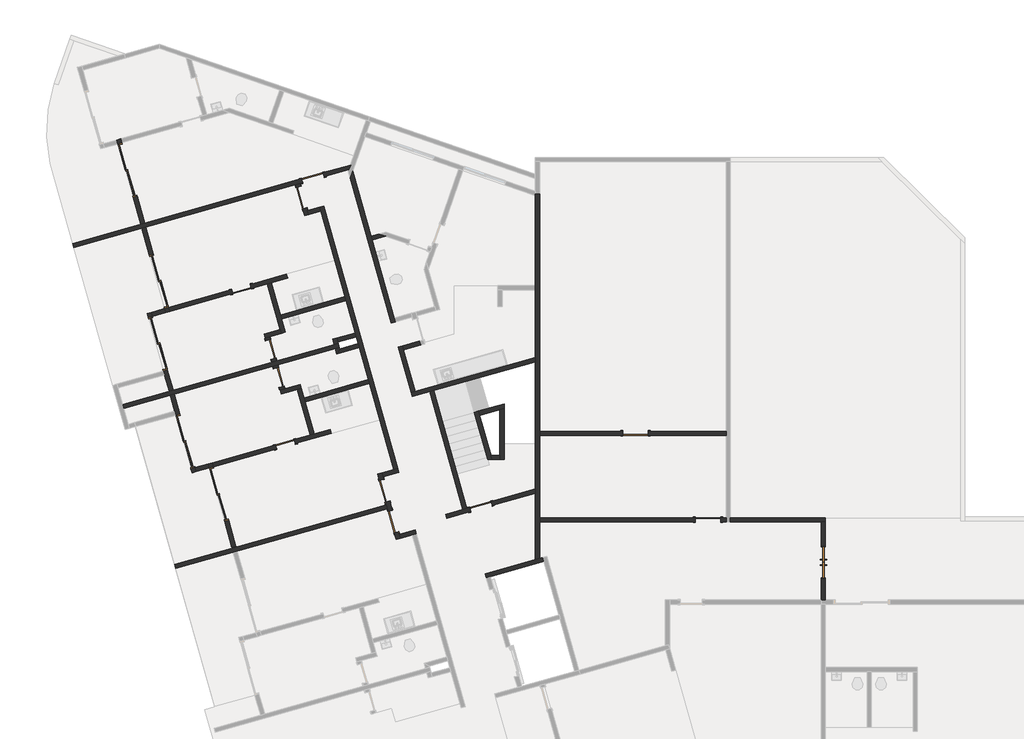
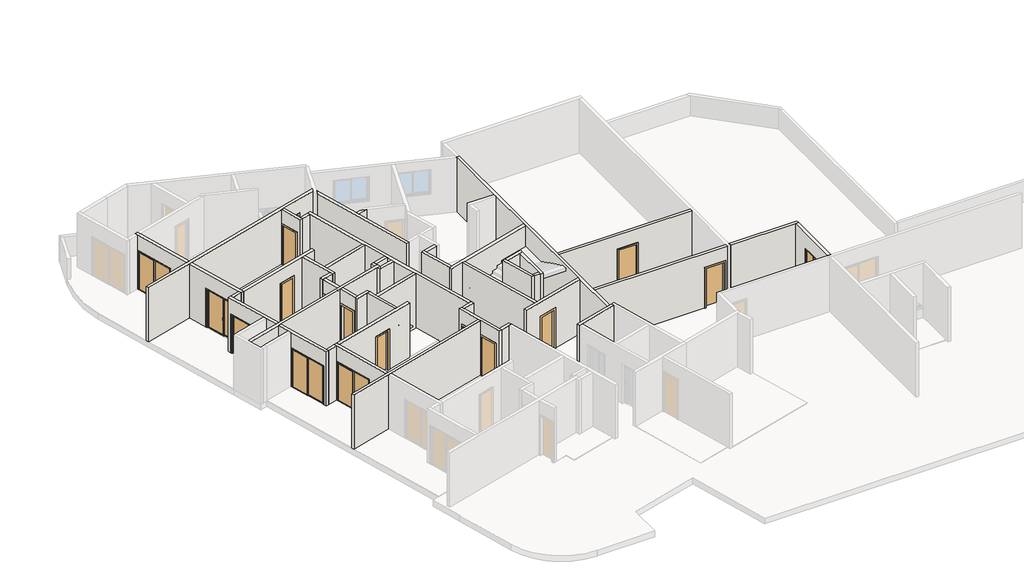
# One storey, part 2 of 7: 47 walls, 17 doors.
"""IFC4 building model written with IfcOpenShell, lengths in millimetres."""

from ifc_helpers import new_model, si_unit, frame, origin, place, context, project, spatial, polyline, outline, extrude, faceted_brep, transform, mapped, element, save
from components import door_0_90_x_2_10_7c6ad79f, door_1_20_x_2_10_046a985c, p2_80cm_9d4be4ef, p2_80cm_083652d6, p3_70cm_ef4d15e3, p3_70cm_0a698c7c, p4_correr_200cm_eaaa0877

model = new_model("IFC4")

# Units and contexts
model_context = context("Model", 3, world=origin())
ifc_project = project(units=[si_unit("LENGTHUNIT", "METRE", prefix="MILLI")], contexts=[model_context])

# Site, building, storey
site = spatial("IfcSite", under=ifc_project)
building = spatial("IfcBuilding", under=site)
storey = spatial("IfcBuildingStorey", under=building, Name="Térreo", Elevation=50750.0)

# Doors
placement = place(None, origin())
door_0_90_x_2_10_shape = door_0_90_x_2_10_7c6ad79f(model_context)
element("IfcDoor", 1, ObjectType="M_Folha única1 : 0.90 x 2.10", at=placement, inside=storey, context=model_context, shape_type="MappedRepresentation", body=[
    mapped(door_0_90_x_2_10_shape, transform((-71552.1801255, 21758.3512282, 50750.0), x_axis=(-1.0, 0.0, 0.0), y_axis=(0.0, -1.0, 0.0), z_axis=(0.0, 0.0, 1.0))),
])
element("IfcDoor", 2, ObjectType="M_Folha única1 : 0.90 x 2.10", at=placement, inside=storey, context=model_context, shape_type="MappedRepresentation", body=[
    mapped(door_0_90_x_2_10_shape, transform((-68948.5796889, 18651.6215174, 50750.0), x_axis=(1.0, 0.0, 0.0), y_axis=(0.0, 1.0, 0.0), z_axis=(0.0, 0.0, 1.0))),
])
door_1_20_x_2_10_shape = door_1_20_x_2_10_046a985c(model_context)
element("IfcDoor", 3, ObjectType="Porta pivotante dupla sem revestimento : 1.20 x 2.10", at=placement, inside=storey, context=model_context, shape_type="MappedRepresentation", body=[
    mapped(door_1_20_x_2_10_shape, transform((-64803.9279787, 17119.8740033, 50750.0), x_axis=(0.0, -1.0, 0.0), y_axis=(1.0, 0.0, 0.0), z_axis=(0.0, 0.0, 1.0))),
])
p2_80cm_shape = p2_80cm_9d4be4ef(model_context)
element("IfcDoor", 4, ObjectType="M_Folha única1 : P2 - 80CM", at=placement, inside=storey, context=model_context, shape_type="MappedRepresentation", body=[
    mapped(p2_80cm_shape, transform((-83145.1128896, 30941.0402894, 50750.0), x_axis=(-0.9623628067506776, -0.2717679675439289, 0.0), y_axis=(0.2717679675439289, -0.9623628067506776, 0.0), z_axis=(0.0, 0.0, 1.0))),
])
element("IfcDoor", 5, ObjectType="M_Folha única1 : P2 - 80CM", at=placement, inside=storey, context=model_context, shape_type="MappedRepresentation", body=[
    mapped(p2_80cm_shape, transform((-80566.3456776, 19693.5423602, 50750.0), x_axis=(0.2717679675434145, -0.9623628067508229, 0.0), y_axis=(0.9623628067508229, 0.2717679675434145, 0.0), z_axis=(0.0, 0.0, 1.0))),
])
p2_80cm_2_shape = p2_80cm_083652d6(model_context)
element("IfcDoor", 6, ObjectType="M_Folha única1 : P2 - 80CM", at=placement, inside=storey, context=model_context, shape_type="MappedRepresentation", body=[
    mapped(p2_80cm_2_shape, transform((-83542.2049222, 30231.4150941, 50750.0), x_axis=(-0.2717679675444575, 0.9623628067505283, 0.0), y_axis=(-0.9623628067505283, -0.2717679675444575, 0.0), z_axis=(0.0, 0.0, 1.0))),
])
element("IfcDoor", 7, ObjectType="M_Folha única1 : P2 - 80CM", at=placement, inside=storey, context=model_context, shape_type="MappedRepresentation", body=[
    mapped(p2_80cm_2_shape, transform((-80253.8125149, 18586.8251325, 50750.0), x_axis=(-0.2717679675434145, 0.9623628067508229, 0.0), y_axis=(-0.9623628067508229, -0.2717679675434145, 0.0), z_axis=(0.0, 0.0, 1.0))),
])
p3_70cm_shape = p3_70cm_ef4d15e3(model_context)
element("IfcDoor", 8, ObjectType="M_Folha única1 : P3 - 70CM", at=placement, inside=storey, context=model_context, shape_type="MappedRepresentation", body=[
    mapped(p3_70cm_shape, transform((-84129.1775441, 21363.1168842, 50750.0), x_axis=(0.9623628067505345, 0.27176796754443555, 0.0), y_axis=(-0.27176796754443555, 0.9623628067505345, 0.0), z_axis=(0.0, 0.0, 1.0))),
])
element("IfcDoor", 9, ObjectType="M_Folha única1 : P3 - 70CM", at=placement, inside=storey, context=model_context, shape_type="MappedRepresentation", body=[
    mapped(p3_70cm_shape, transform((-84650.97864, 24774.7108835, 50750.0), x_axis=(0.2717679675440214, -0.9623628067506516, 0.0), y_axis=(0.9623628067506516, 0.2717679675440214, 0.0), z_axis=(0.0, 0.0, 1.0))),
])
p3_70cm_2_shape = p3_70cm_0a698c7c(model_context)
element("IfcDoor", 10, ObjectType="M_Folha única1 : P3 - 70CM", at=placement, inside=storey, context=model_context, shape_type="MappedRepresentation", body=[
    mapped(p3_70cm_2_shape, transform((-84365.6222741, 23764.2299364, 50750.0), x_axis=(-0.2717679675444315, 0.9623628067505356, 0.0), y_axis=(-0.9623628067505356, -0.2717679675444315, 0.0), z_axis=(0.0, 0.0, 1.0))),
])
element("IfcDoor", 11, ObjectType="M_Folha única1 : P3 - 70CM", at=placement, inside=storey, context=model_context, shape_type="MappedRepresentation", body=[
    mapped(p3_70cm_2_shape, transform((-85705.4317558, 26944.8211633, 50750.0), x_axis=(0.9623628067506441, 0.2717679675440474, 0.0), y_axis=(-0.2717679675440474, 0.9623628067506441, 0.0), z_axis=(0.0, 0.0, 1.0))),
])
p4_correr_200cm_shape = p4_correr_200cm_eaaa0877(model_context)
element("IfcDoor", 12, ObjectType="Porta de correr dupla envidraçada sem revestimento : P4 - CORRER - 200CM", at=placement, inside=storey, context=model_context, shape_type="MappedRepresentation", body=[
    mapped(p4_correr_200cm_shape, transform((-89799.7974026, 31217.9316171, 50750.0), x_axis=(0.27176796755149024, -0.9623628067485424, 0.0), y_axis=(0.9623628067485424, 0.27176796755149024, 0.0), z_axis=(0.0, 0.0, 1.0))),
])
element("IfcDoor", 13, ObjectType="Porta de correr dupla envidraçada sem revestimento : P4 - CORRER - 200CM", at=placement, inside=storey, context=model_context, shape_type="MappedRepresentation", body=[
    mapped(p4_correr_200cm_shape, transform((-88671.9603372, 27224.125969, 50750.0), x_axis=(-0.27176796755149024, 0.9623628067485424, 0.0), y_axis=(-0.9623628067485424, -0.27176796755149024, 0.0), z_axis=(0.0, 0.0, 1.0))),
])
element("IfcDoor", 14, ObjectType="Porta de correr dupla envidraçada sem revestimento : P4 - CORRER - 200CM", at=placement, inside=storey, context=model_context, shape_type="MappedRepresentation", body=[
    mapped(p4_correr_200cm_shape, transform((-86511.4049952, 19573.3416554, 50750.0), x_axis=(0.2717679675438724, -0.9623628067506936, 0.0), y_axis=(0.9623628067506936, 0.2717679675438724, 0.0), z_axis=(0.0, 0.0, 1.0))),
])
element("IfcDoor", 15, ObjectType="Porta de correr dupla envidraçada sem revestimento : P4 - CORRER - 200CM", at=placement, inside=storey, context=model_context, shape_type="MappedRepresentation", body=[
    mapped(p4_correr_200cm_shape, transform((-87717.4207223, 21466.8516126, 50750.0), x_axis=(0.2717679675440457, -0.9623628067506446, 0.0), y_axis=(0.9623628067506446, 0.2717679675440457, 0.0), z_axis=(0.0, 0.0, 1.0))),
])
element("IfcDoor", 16, ObjectType="Porta de correr dupla envidraçada sem revestimento : P4 - CORRER - 200CM", at=placement, inside=storey, context=model_context, shape_type="MappedRepresentation", body=[
    mapped(p4_correr_200cm_shape, transform((-88709.3738038, 24979.4758572, 50750.0), x_axis=(-0.2717679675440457, 0.9623628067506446, 0.0), y_axis=(-0.9623628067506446, -0.2717679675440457, 0.0), z_axis=(0.0, 0.0, 1.0))),
])
element("IfcDoor", 17, ObjectType="M_Folha única1 : PCF1 - 80CM", at=placement, inside=storey, context=model_context, shape_type="MappedRepresentation", body=[
    mapped(p2_80cm_shape, transform((-77103.5502958, 19127.1105693, 50750.0), x_axis=(-0.9623628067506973, -0.2717679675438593, 0.0), y_axis=(0.2717679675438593, -0.9623628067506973, 0.0), z_axis=(0.0, 0.0, 1.0))),
])

# Walls
element("IfcWall", 18, ObjectType="Básica .15 -  Interna", at=placement, inside=storey, context=model_context, shape_type="Brep", body=[
    faceted_brep([(-82901.0804648, 29892.9118737, 50750.0), (-82860.3152697, 29748.5574527, 50750.0), (-81990.6577736, 26668.9964711, 50750.0), (-81949.8925784, 26524.6420501, 50750.0), (-81623.7710174, 25369.806682, 50750.0), (-81583.0058223, 25225.452261, 50750.0), (-81515.0638304, 24984.8615593, 50750.0), (-81474.2986352, 24840.5071383, 50750.0), (-81148.1770742, 23685.6717702, 50750.0), (-81107.4118791, 23541.3173492, 50750.0), (-80237.7543829, 20461.7563676, 50750.0), (-80237.7543829, 20461.7563676, 53650.0), (-81107.4118791, 23541.3173492, 53650.0), (-81148.1770742, 23685.6717702, 53650.0), (-81474.2986352, 24840.5071383, 53650.0), (-81515.0638304, 24984.8615593, 53650.0), (-81583.0058223, 25225.452261, 53650.0), (-81623.7710174, 25369.806682, 53650.0), (-81949.8925784, 26524.6420501, 53650.0), (-81990.6577736, 26668.9964711, 53650.0), (-82860.3152697, 29748.5574527, 53650.0), (-82901.0804648, 29892.9118737, 53650.0), (-82756.7260438, 29933.6770689, 50750.0), (-82756.7260438, 29933.6770689, 53650.0), (-80093.3999619, 20502.5215627, 53650.0), (-80093.3999619, 20502.5215627, 50750.0)], [[[0, 1, 2, 3, 4, 5, 6, 7, 8, 9, 10, 11, 12, 13, 14, 15, 16, 17, 18, 19, 20, 21]], [[22, 23, 24, 25]], [[10, 9, 8, 7, 6, 5, 4, 3, 2, 1, 0, 22, 25]], [[21, 20, 19, 18, 17, 16, 15, 14, 13, 12, 11, 24, 23]], [[0, 21, 23, 22]], [[11, 10, 25, 24]]]),
])
element("IfcWall", 19, ObjectType="Básica .15 -  Interna", at=placement, inside=storey, context=model_context, shape_type="Brep", body=[
    faceted_brep([(-83750.2661164, 30692.2138999, 50750.0), (-83723.0893197, 30595.9776193, 50750.0), (-83723.0893197, 30595.9776193, 52850.0), (-83505.6749457, 29826.0873739, 52850.0), (-83505.6749457, 29826.0873739, 50750.0), (-83437.7329538, 29585.4966722, 50750.0), (-83437.7329538, 29585.4966722, 53650.0), (-83750.2661164, 30692.2138999, 53650.0), (-83578.7348987, 30636.7428144, 52850.0), (-83578.7348987, 30636.7428144, 50750.0), (-83605.9116954, 30732.9790951, 50750.0), (-83605.9116954, 30732.9790951, 53650.0), (-83334.1437279, 29770.6162883, 53650.0), (-83293.3785328, 29626.2618673, 53650.0), (-83293.3785328, 29626.2618673, 50750.0), (-83334.1437279, 29770.6162883, 50750.0), (-83361.3205246, 29866.852569, 50750.0), (-83361.3205246, 29866.852569, 52850.0)], [[[0, 1, 2, 3, 4, 5, 6, 7]], [[8, 9, 10, 11, 12, 13, 14, 15, 16, 17]], [[10, 9, 1, 0]], [[16, 15, 14, 5, 4]], [[7, 6, 13, 12, 11]], [[6, 5, 14, 13]], [[0, 7, 11, 10]], [[2, 1, 9, 8]], [[3, 2, 8, 17]], [[4, 3, 17, 16]]]),
])
element("IfcWall", 20, ObjectType="Básica .15 -  Interna", at=placement, inside=storey, context=model_context, shape_type="SweptSolid", body=[
    extrude(outline(polyline([(-82860.3152697, 29748.5574527), (-83293.3785328, 29626.2618673), (-83334.1437279, 29770.6162883), (-82901.0804648, 29892.9118737), (-82860.3152697, 29748.5574527)])), frame((0.0, 0.0, 50750.0), z_axis=(0.0, 0.0, 1.0), x_axis=(1.0, 0.0, 0.0)), (0.0, 0.0, 1.0), 2900.0),
])
element("IfcWall", 21, ObjectType="Básica .15 -  Interna", at=placement, inside=storey, context=model_context, shape_type="Brep", body=[
    faceted_brep([(-80093.3999619, 20502.5215627, 50750.0), (-80237.7543829, 20461.7563676, 50750.0), (-80670.817646, 20339.4607822, 50750.0), (-80670.817646, 20339.4607822, 53650.0), (-80237.7543829, 20461.7563676, 53650.0), (-80093.3999619, 20502.5215627, 53650.0), (-80052.6347668, 20358.1671417, 50750.0), (-80052.6347668, 20358.1671417, 53650.0), (-80630.0524508, 20195.1063612, 53650.0), (-80630.0524508, 20195.1063612, 50750.0)], [[[0, 1, 2, 3, 4, 5]], [[6, 7, 8, 9]], [[2, 1, 0, 6, 9]], [[5, 4, 3, 8, 7]], [[3, 2, 9, 8]], [[0, 5, 7, 6]]]),
])
element("IfcWall", 22, ObjectType="Básica .15 -  Interna", at=placement, inside=storey, context=model_context, shape_type="Brep", body=[
    faceted_brep([(-80529.815701, 19288.21464, 50750.0), (-80502.6389043, 19191.9783593, 50750.0), (-80461.8737092, 19047.6239383, 50750.0), (-80434.6969124, 18951.3876576, 50750.0), (-80434.6969124, 18951.3876576, 52850.0), (-80217.2825384, 18181.4974122, 52850.0), (-80217.2825384, 18181.4974122, 50750.0), (-80149.3405465, 17940.9067105, 50750.0), (-80149.3405465, 17940.9067105, 53650.0), (-80461.8737092, 19047.6239383, 53650.0), (-80502.6389043, 19191.9783593, 53650.0), (-80815.172067, 20298.695587, 53650.0), (-80815.172067, 20298.695587, 50750.0), (-80747.2300751, 20058.1048854, 50750.0), (-80747.2300751, 20058.1048854, 52850.0), (-80529.815701, 19288.21464, 52850.0), (-80290.3424914, 18992.1528527, 52850.0), (-80290.3424914, 18992.1528527, 50750.0), (-80385.46128, 19328.9798351, 50750.0), (-80385.46128, 19328.9798351, 52850.0), (-80602.8756541, 20098.8700805, 52850.0), (-80602.8756541, 20098.8700805, 50750.0), (-80630.0524508, 20195.1063612, 50750.0), (-80670.817646, 20339.4607822, 50750.0), (-80670.817646, 20339.4607822, 53650.0), (-80630.0524508, 20195.1063612, 53650.0), (-80045.7513206, 18126.0263266, 53650.0), (-80004.9861255, 17981.6719056, 53650.0), (-80004.9861255, 17981.6719056, 50750.0), (-80045.7513206, 18126.0263266, 50750.0), (-80072.9281174, 18222.2626073, 50750.0), (-80072.9281174, 18222.2626073, 52850.0)], [[[0, 1, 2, 3, 4, 5, 6, 7, 8, 9, 10, 11, 12, 13, 14, 15]], [[16, 17, 18, 19, 20, 21, 22, 23, 24, 25, 26, 27, 28, 29, 30, 31]], [[13, 12, 23, 22, 21]], [[18, 17, 3, 2, 1, 0]], [[30, 29, 28, 7, 6]], [[11, 10, 9, 8, 27, 26, 25, 24]], [[12, 11, 24, 23]], [[8, 7, 28, 27]], [[19, 18, 0, 15]], [[20, 19, 15, 14]], [[21, 20, 14, 13]], [[4, 3, 17, 16]], [[5, 4, 16, 31]], [[6, 5, 31, 30]]]),
])
element("IfcWall", 23, ObjectType="Básica .15 -  Interna", at=placement, inside=storey, context=model_context, shape_type="Brep", body=[
    faceted_brep([(-80004.9861255, 17981.6719056, 50750.0), (-79571.9228624, 18103.967491, 50750.0), (-79427.5684414, 18144.7326862, 50750.0), (-79427.5684414, 18144.7326862, 53650.0), (-79571.9228624, 18103.967491, 53650.0), (-80004.9861255, 17981.6719056, 53650.0), (-80045.7513206, 18126.0263266, 50750.0), (-80045.7513206, 18126.0263266, 53650.0), (-79468.3336366, 18289.0871072, 53650.0), (-79468.3336366, 18289.0871072, 50750.0)], [[[0, 1, 2, 3, 4, 5]], [[6, 7, 8, 9]], [[2, 1, 0, 6, 9]], [[5, 4, 3, 8, 7]], [[3, 2, 9, 8]], [[0, 5, 7, 6]]]),
])
element("IfcWall", 24, ObjectType="Básica .15 -  Interna", at=placement, inside=storey, context=model_context, shape_type="Brep", body=[
    faceted_brep([(-86046.8404698, 17652.2925145, 50750.0), (-86046.8404698, 17652.2925145, 53650.0), (-86855.3501733, 20515.3218646, 53650.0), (-86896.1153684, 20659.6762856, 53650.0), (-86896.1153684, 20659.6762856, 50750.0), (-86855.3501733, 20515.3218646, 50750.0), (-86855.3501733, 20515.3218646, 52850.0), (-86311.8142382, 18590.596251, 52850.0), (-86311.8142382, 18590.596251, 50750.0), (-85902.4860488, 17693.0577096, 53650.0), (-85902.4860488, 17693.0577096, 50750.0), (-86167.4598172, 18631.3614462, 50750.0), (-86167.4598172, 18631.3614462, 52850.0), (-86710.9957523, 20556.0870597, 52850.0), (-86710.9957523, 20556.0870597, 50750.0), (-86751.7609474, 20700.4414807, 50750.0), (-86751.7609474, 20700.4414807, 53650.0), (-86710.9957523, 20556.0870597, 53650.0)], [[[0, 1, 2, 3, 4, 5, 6, 7, 8]], [[9, 10, 11, 12, 13, 14, 15, 16, 17]], [[10, 0, 8, 11]], [[4, 15, 14, 5]], [[1, 0, 10, 9]], [[3, 2, 1, 9, 17, 16]], [[4, 3, 16, 15]], [[7, 12, 11, 8]], [[12, 7, 6, 13]], [[13, 6, 5, 14]]]),
])
element("IfcWall", 25, ObjectType="Básica .15 -  Interna", at=placement, inside=storey, context=model_context, shape_type="Brep", body=[
    faceted_brep([(-88305.9570711, 23274.9583478, 53650.0), (-88469.0178517, 23852.3760319, 53650.0), (-88509.7830468, 23996.7304529, 53650.0), (-89094.084177, 26065.8104874, 53650.0), (-89094.084177, 26065.8104874, 50750.0), (-89053.3189819, 25921.4560664, 50750.0), (-89053.3189819, 25921.4560664, 52850.0), (-88509.7830468, 23996.7304529, 52850.0), (-88509.7830468, 23996.7304529, 50750.0), (-88469.0178517, 23852.3760319, 50750.0), (-88305.9570711, 23274.9583478, 50750.0), (-88949.729756, 26106.5756825, 53650.0), (-88908.9645609, 25962.2212615, 53650.0), (-88161.6026501, 23315.723543, 53650.0), (-88161.6026501, 23315.723543, 50750.0), (-88365.4286258, 24037.495648, 50750.0), (-88365.4286258, 24037.495648, 52850.0), (-88908.9645609, 25962.2212615, 52850.0), (-88908.9645609, 25962.2212615, 50750.0), (-88949.729756, 26106.5756825, 50750.0)], [[[0, 1, 2, 3, 4, 5, 6, 7, 8, 9, 10]], [[11, 12, 13, 14, 15, 16, 17, 18, 19]], [[4, 19, 18, 5]], [[14, 10, 9, 8, 15]], [[3, 2, 1, 0, 13, 12, 11]], [[4, 3, 11, 19]], [[0, 10, 14, 13]], [[17, 6, 5, 18]], [[6, 17, 16, 7]], [[7, 16, 15, 8]]]),
])
element("IfcWall", 26, ObjectType="Básica .15 -  Interna", at=placement, inside=storey, context=model_context, shape_type="Brep", body=[
    faceted_brep([(-89143.3190618, 29169.2341801, 53650.0), (-88328.0151592, 26282.1457598, 53650.0), (-88287.249964, 26137.7913388, 53650.0), (-88287.249964, 26137.7913388, 50750.0), (-88328.0151592, 26282.1457598, 50750.0), (-88328.0151592, 26282.1457598, 52850.0), (-88871.5510943, 28206.8713733, 52850.0), (-88871.5510943, 28206.8713733, 50750.0), (-89143.3190618, 29169.2341801, 50750.0), (-88431.604385, 26097.0261437, 53650.0), (-88472.3695802, 26241.3805647, 53650.0), (-89287.6734828, 29128.468985, 53650.0), (-89287.6734828, 29128.468985, 50750.0), (-89015.9055153, 28166.1061782, 50750.0), (-89015.9055153, 28166.1061782, 52850.0), (-88472.3695802, 26241.3805647, 52850.0), (-88472.3695802, 26241.3805647, 50750.0), (-88431.604385, 26097.0261437, 50750.0)], [[[0, 1, 2, 3, 4, 5, 6, 7, 8]], [[9, 10, 11, 12, 13, 14, 15, 16, 17]], [[3, 17, 16, 4]], [[12, 8, 7, 13]], [[2, 1, 0, 11, 10, 9]], [[3, 2, 9, 17]], [[0, 8, 12, 11]], [[6, 14, 13, 7]], [[14, 6, 5, 15]], [[15, 5, 4, 16]]]),
])
element("IfcWall", 27, ObjectType="Básica .15 -  Interna", at=placement, inside=storey, context=model_context, shape_type="Brep", body=[
    faceted_brep([(-76904.7538909, 16570.3643175, 50750.0), (-76760.3994699, 16611.1295126, 50750.0), (-74840.4856705, 17153.3066079, 50750.0), (-74840.4856705, 17153.3066079, 53650.0), (-76760.3994699, 16611.1295126, 53650.0), (-76904.7538909, 16570.3643175, 53650.0), (-76945.5190861, 16714.7187385, 50750.0), (-76945.5190861, 16714.7187385, 53650.0), (-75147.8282189, 17222.3804954, 53650.0), (-74997.8282189, 17264.7399828, 53650.0), (-74881.2508656, 17297.6610289, 53650.0), (-74881.2508656, 17297.6610289, 50750.0), (-74997.8282189, 17264.7399828, 50750.0), (-75147.8282189, 17222.3804954, 50750.0)], [[[0, 1, 2, 3, 4, 5]], [[6, 7, 8, 9, 10, 11, 12, 13]], [[2, 1, 0, 6, 13, 12, 11]], [[5, 4, 3, 10, 9, 8, 7]], [[0, 5, 7, 6]], [[3, 2, 11, 10]]]),
])
element("IfcWall", 28, ObjectType="Básica .15 -  Interna", at=placement, inside=storey, context=model_context, shape_type="Brep", body=[
    faceted_brep([(-79570.9048554, 23078.5590693, 50750.0), (-78948.2127609, 23254.4051886, 50750.0), (-78803.8582924, 23295.1703972, 50750.0), (-75147.8282189, 24327.6207947, 50750.0), (-75147.8282189, 24327.6207947, 53650.0), (-78803.8582924, 23295.1703972, 53650.0), (-78948.2127609, 23254.4051886, 53650.0), (-79570.9048554, 23078.5590693, 53650.0), (-79611.6700506, 23222.9134903, 50750.0), (-79611.6700506, 23222.9134903, 53650.0), (-79467.3156296, 23263.6786855, 53650.0), (-75147.8282189, 24483.4871675, 53650.0), (-75147.8282189, 24483.4871675, 50750.0), (-79467.3156296, 23263.6786855, 50750.0)], [[[0, 1, 2, 3, 4, 5, 6, 7]], [[8, 9, 10, 11, 12, 13]], [[3, 2, 1, 0, 8, 13, 12]], [[7, 6, 5, 4, 11, 10, 9]], [[0, 7, 9, 8]], [[4, 3, 12, 11]]]),
])
element("IfcWall", 29, ObjectType="Básica .15 -  Interna", at=placement, inside=storey, context=model_context, shape_type="SweptSolid", body=[
    extrude(outline(polyline([(-77749.4687652, 19022.6385875), (-78948.2127609, 23254.4051886), (-78803.8582924, 23295.1703972), (-77605.1142967, 19063.4037961), (-77749.4687652, 19022.6385875)])), frame((0.0, 0.0, 50750.0), z_axis=(0.0, 0.0, 1.0), x_axis=(1.0, 0.0, 0.0)), (0.0, 0.0, 1.0), 2900.0),
])
element("IfcWall", 30, ObjectType="Básica .15 -  Interna", at=placement, inside=storey, context=model_context, shape_type="Brep", body=[
    faceted_brep([(-77508.878016, 19090.5805928, 52850.0), (-77508.878016, 19090.5805928, 50750.0), (-77605.1142967, 19063.4037961, 50750.0), (-77749.4687652, 19022.6385875, 50750.0), (-78375.5945972, 18845.8227925, 50750.0), (-78375.5945972, 18845.8227925, 53650.0), (-77749.4687652, 19022.6385875, 53650.0), (-77605.1142967, 19063.4037961, 53650.0), (-75147.8282189, 19757.3329862, 53650.0), (-75147.8282189, 19757.3329862, 50750.0), (-76738.9877706, 19307.9949669, 50750.0), (-76738.9877706, 19307.9949669, 52850.0), (-78334.829402, 18701.4683715, 50750.0), (-77468.1128209, 18946.2261718, 50750.0), (-77468.1128209, 18946.2261718, 52850.0), (-76698.2225755, 19163.6405459, 52850.0), (-76698.2225755, 19163.6405459, 50750.0), (-75147.8282189, 19601.4666134, 50750.0), (-75147.8282189, 19601.4666134, 53650.0), (-78334.829402, 18701.4683715, 53650.0)], [[[0, 1, 2, 3, 4, 5, 6, 7, 8, 9, 10, 11]], [[12, 13, 14, 15, 16, 17, 18, 19]], [[10, 9, 17, 16]], [[4, 3, 2, 1, 13, 12]], [[5, 4, 12, 19]], [[8, 7, 6, 5, 19, 18]], [[14, 13, 1, 0]], [[15, 14, 0, 11]], [[16, 15, 11, 10]], [[9, 8, 18, 17]]]),
])
element("IfcWall", 31, ObjectType="Básica .15 -  Interna", at=placement, inside=storey, context=model_context, shape_type="Brep", body=[
    faceted_brep([(-75147.8282189, 30356.258394, 50750.0), (-75147.8282189, 30302.8666514, 50750.0), (-75147.8282189, 27060.8243598, 50750.0), (-75147.8282189, 26910.8243598, 50750.0), (-75147.8282189, 24483.4871675, 50750.0), (-75147.8282189, 24327.6207947, 50750.0), (-75147.8282189, 19757.3329862, 50750.0), (-75147.8282189, 19601.4666134, 50750.0), (-75147.8282189, 17222.3804954, 50750.0), (-75147.8282189, 17222.3804954, 53650.0), (-75147.8282189, 19601.4666134, 53650.0), (-75147.8282189, 19757.3329862, 53650.0), (-75147.8282189, 24327.6207947, 53650.0), (-75147.8282189, 24483.4871675, 53650.0), (-75147.8282189, 26910.8243598, 53650.0), (-75147.8282189, 27060.8243598, 53650.0), (-75147.8282189, 30302.8666514, 53650.0), (-75147.8282189, 30356.258394, 53650.0), (-74997.8282189, 30356.258394, 50750.0), (-74997.8282189, 30356.258394, 53650.0), (-74997.8282189, 21833.3512282, 53650.0), (-74997.8282189, 21683.3512282, 53650.0), (-74997.8282189, 18726.6215174, 53650.0), (-74997.8282189, 18576.6215174, 53650.0), (-74997.8282189, 17264.7399828, 53650.0), (-74997.8282189, 17264.7399828, 50750.0), (-74997.8282189, 18576.6215174, 50750.0), (-74997.8282189, 18726.6215174, 50750.0), (-74997.8282189, 21683.3512282, 50750.0), (-74997.8282189, 21833.3512282, 50750.0)], [[[0, 1, 2, 3, 4, 5, 6, 7, 8, 9, 10, 11, 12, 13, 14, 15, 16, 17]], [[18, 19, 20, 21, 22, 23, 24, 25, 26, 27, 28, 29]], [[8, 7, 6, 5, 4, 3, 2, 1, 0, 18, 29, 28, 27, 26, 25]], [[17, 16, 15, 14, 13, 12, 11, 10, 9, 24, 23, 22, 21, 20, 19]], [[0, 17, 19, 18]], [[9, 8, 25, 24]]]),
])
element("IfcWall", 32, ObjectType="Básica .15 -  Interna", at=placement, inside=storey, context=model_context, shape_type="Brep", body=[
    faceted_brep([(-80073.6755954, 24858.9302618, 50750.0), (-79611.6700506, 23222.9134903, 50750.0), (-79611.6700506, 23222.9134903, 53650.0), (-80073.6755954, 24858.9302618, 53650.0), (-79929.3211744, 24899.695457, 50750.0), (-79929.3211744, 24899.695457, 53650.0), (-79888.5559793, 24755.3410359, 53650.0), (-79467.3156296, 23263.6786855, 53650.0), (-79467.3156296, 23263.6786855, 50750.0), (-79888.5559793, 24755.3410359, 50750.0)], [[[0, 1, 2, 3]], [[4, 5, 6, 7, 8, 9]], [[1, 0, 4, 9, 8]], [[3, 2, 7, 6, 5]], [[0, 3, 5, 4]], [[2, 1, 8, 7]]]),
])
element("IfcWall", 33, ObjectType="Básica .15 -  Interna", at=placement, inside=storey, context=model_context, shape_type="Brep", body=[
    faceted_brep([(-79888.5559793, 24755.3410359, 50750.0), (-79272.1145689, 24929.4219834, 50750.0), (-79272.1145689, 24929.4219834, 53650.0), (-79888.5559793, 24755.3410359, 53650.0), (-79929.3211744, 24899.695457, 50750.0), (-79929.3211744, 24899.695457, 53650.0), (-79312.8797641, 25073.7764044, 53650.0), (-79312.8797641, 25073.7764044, 52850.0), (-79312.8797641, 25073.7764044, 50750.0)], [[[0, 1, 2, 3]], [[4, 5, 6, 7, 8]], [[1, 0, 4, 8]], [[3, 2, 6, 5]], [[0, 3, 5, 4]], [[2, 1, 8, 7, 6]]]),
])
element("IfcWall", 34, ObjectType="Básica .15 -  Interna", at=placement, inside=storey, context=model_context, shape_type="Brep", body=[
    faceted_brep([(-81789.2550074, 30934.0017027, 50750.0), (-80318.2667662, 25725.0567879, 50750.0), (-80318.2667662, 25725.0567879, 53650.0), (-81789.2550074, 30934.0017027, 53650.0), (-81703.3880158, 31181.8778654, 50750.0), (-81703.3880158, 31181.8778654, 53650.0), (-81045.1503443, 28850.9797144, 53650.0), (-81004.3851492, 28706.6252933, 53650.0), (-80214.6775403, 25910.176404, 53650.0), (-80173.9123452, 25765.821983, 53650.0), (-80173.9123452, 25765.821983, 50750.0), (-80214.6775403, 25910.176404, 50750.0), (-81004.3851492, 28706.6252933, 50750.0), (-81045.1503443, 28850.9797144, 50750.0)], [[[0, 1, 2, 3]], [[4, 5, 6, 7, 8, 9, 10, 11, 12, 13]], [[1, 0, 4, 13, 12, 11, 10]], [[3, 2, 9, 8, 7, 6, 5]], [[0, 3, 5, 4]], [[2, 1, 10, 9]]]),
])
element("IfcWall", 35, ObjectType="Básica .15 -  Interna", at=placement, inside=storey, context=model_context, shape_type="Brep", body=[
    faceted_brep([(-86896.1153684, 20659.6762856, 50750.0), (-87373.4755442, 20524.8714034, 50750.0), (-87373.4755442, 20524.8714034, 52850.0), (-87373.4755442, 20524.8714034, 53650.0), (-86896.1153684, 20659.6762856, 53650.0), (-86855.3501733, 20515.3218646, 50750.0), (-86855.3501733, 20515.3218646, 52850.0), (-86855.3501733, 20515.3218646, 53650.0), (-87332.7103491, 20380.5169824, 53650.0), (-87332.7103491, 20380.5169824, 50750.0)], [[[0, 1, 2, 3, 4]], [[5, 6, 7, 8, 9]], [[1, 0, 5, 9]], [[4, 3, 8, 7]], [[0, 4, 7, 6, 5]], [[3, 2, 1, 9, 8]]]),
])
element("IfcWall", 36, ObjectType="Básica .15 -  Interna", at=placement, inside=storey, context=model_context, shape_type="Brep", body=[
    faceted_brep([(-88908.9645609, 25962.2212615, 50750.0), (-88431.604385, 26097.0261437, 50750.0), (-88431.604385, 26097.0261437, 53650.0), (-88908.9645609, 25962.2212615, 53650.0), (-88908.9645609, 25962.2212615, 52850.0), (-88949.729756, 26106.5756825, 50750.0), (-88949.729756, 26106.5756825, 53650.0), (-88472.3695802, 26241.3805647, 53650.0), (-88472.3695802, 26241.3805647, 50750.0)], [[[0, 1, 2, 3, 4]], [[5, 6, 7, 8]], [[1, 0, 5, 8]], [[3, 2, 7, 6]], [[0, 4, 3, 6, 5]], [[2, 1, 8, 7]]]),
])
element("IfcWall", 37, ObjectType="Básica .15 -  Interna", at=placement, inside=storey, context=model_context, shape_type="Brep", body=[
    faceted_brep([(-91725.2428613, 28440.1077234, 50750.0), (-89287.6734828, 29128.468985, 50750.0), (-89143.3190618, 29169.2341801, 50750.0), (-83750.2661164, 30692.2138999, 50750.0), (-83605.9116954, 30732.9790951, 50750.0), (-83509.6754148, 30760.1558918, 50750.0), (-83509.6754148, 30760.1558918, 52850.0), (-82739.7851694, 30977.5702659, 52850.0), (-82739.7851694, 30977.5702659, 50750.0), (-81845.4155775, 31230.1371819, 50750.0), (-81845.4155775, 31230.1371819, 53650.0), (-83605.9116954, 30732.9790951, 53650.0), (-83750.2661164, 30692.2138999, 53650.0), (-89143.3190618, 29169.2341801, 53650.0), (-89287.6734828, 29128.468985, 53650.0), (-91725.2428613, 28440.1077234, 53650.0), (-83550.4406099, 30904.5103128, 52850.0), (-83550.4406099, 30904.5103128, 50750.0), (-89184.084257, 29313.5886011, 50750.0), (-89328.438678, 29272.823406, 50750.0), (-91766.0080564, 28584.4621444, 50750.0), (-91766.0080564, 28584.4621444, 53650.0), (-89328.438678, 29272.823406, 53650.0), (-89184.084257, 29313.5886011, 53650.0), (-81785.5670817, 31402.9045654, 53650.0), (-81785.5670817, 31402.9045654, 50750.0), (-82780.5503645, 31121.9246869, 50750.0), (-82780.5503645, 31121.9246869, 52850.0)], [[[0, 1, 2, 3, 4, 5, 6, 7, 8, 9, 10, 11, 12, 13, 14, 15]], [[16, 17, 18, 19, 20, 21, 22, 23, 24, 25, 26, 27]], [[26, 25, 9, 8]], [[20, 19, 18, 17, 5, 4, 3, 2, 1, 0]], [[15, 14, 13, 12, 11, 10, 24, 23, 22, 21]], [[0, 15, 21, 20]], [[10, 9, 25, 24]], [[6, 5, 17, 16]], [[7, 6, 16, 27]], [[8, 7, 27, 26]]]),
])
element("IfcWall", 38, ObjectType="Básica .15 -  Interna", at=placement, inside=storey, context=model_context, shape_type="Brep", body=[
    faceted_brep([(-90040.1533547, 32345.0314424, 53650.0), (-89999.3881596, 32200.6770214, 53650.0), (-89184.084257, 29313.5886011, 53650.0), (-89184.084257, 29313.5886011, 50750.0), (-89455.8522245, 30275.9514079, 50750.0), (-89455.8522245, 30275.9514079, 52850.0), (-89999.3881596, 32200.6770214, 52850.0), (-89999.3881596, 32200.6770214, 50750.0), (-90040.1533547, 32345.0314424, 50750.0), (-89328.438678, 29272.823406, 53650.0), (-90143.7425806, 32159.9118263, 53650.0), (-90184.5077758, 32304.2662473, 53650.0), (-90184.5077758, 32304.2662473, 50750.0), (-90143.7425806, 32159.9118262, 50750.0), (-90143.7425806, 32159.9118262, 52850.0), (-89600.2066455, 30235.1862128, 52850.0), (-89600.2066455, 30235.1862128, 50750.0), (-89328.438678, 29272.823406, 50750.0)], [[[0, 1, 2, 3, 4, 5, 6, 7, 8]], [[9, 10, 11, 12, 13, 14, 15, 16, 17]], [[12, 8, 7, 13]], [[3, 17, 16, 4]], [[2, 1, 0, 11, 10, 9]], [[0, 8, 12, 11]], [[3, 2, 9, 17]], [[15, 5, 4, 16]], [[5, 15, 14, 6]], [[6, 14, 13, 7]]]),
])
element("IfcWall", 39, ObjectType="Básica .15 -  Interna", at=placement, inside=storey, context=model_context, shape_type="Brep", body=[
    faceted_brep([(-89936.6922366, 22658.5779377, 50750.0), (-88265.191876, 23130.6039268, 50750.0), (-88120.837455, 23171.369122, 50750.0), (-84560.09507, 24176.9106019, 50750.0), (-84415.740649, 24217.675797, 50750.0), (-82192.6825654, 24845.459802, 50750.0), (-82192.6825654, 24845.459802, 53650.0), (-84415.740649, 24217.675797, 53650.0), (-84560.09507, 24176.9106019, 53650.0), (-88120.837455, 23171.369122, 53650.0), (-88265.191876, 23130.6039268, 53650.0), (-89936.6922366, 22658.5779377, 53650.0), (-89977.4574318, 22802.9323587, 50750.0), (-89977.4574318, 22802.9323587, 53650.0), (-88305.9570711, 23274.9583478, 53650.0), (-88161.6026501, 23315.723543, 53650.0), (-84600.8602651, 24321.2650229, 53650.0), (-84456.5058441, 24362.030218, 53650.0), (-82233.4477605, 24989.814223, 53650.0), (-82233.4477605, 24989.814223, 50750.0), (-84456.5058441, 24362.030218, 50750.0), (-84600.8602651, 24321.2650229, 50750.0), (-88161.6026501, 23315.723543, 50750.0), (-88305.9570711, 23274.9583478, 50750.0)], [[[0, 1, 2, 3, 4, 5, 6, 7, 8, 9, 10, 11]], [[12, 13, 14, 15, 16, 17, 18, 19, 20, 21, 22, 23]], [[5, 4, 3, 2, 1, 0, 12, 23, 22, 21, 20, 19]], [[6, 5, 19, 18]], [[11, 10, 9, 8, 7, 6, 18, 17, 16, 15, 14, 13]], [[0, 11, 13, 12]]]),
])
element("IfcWall", 40, ObjectType="Básica .15 -  Interna", at=placement, inside=storey, context=model_context, shape_type="Brep", body=[
    faceted_brep([(-87477.0647701, 20339.7517872, 53650.0), (-88061.3659003, 22408.8318218, 53650.0), (-88102.1310955, 22553.1862428, 53650.0), (-88265.191876, 23130.6039268, 53650.0), (-88265.191876, 23130.6039268, 50750.0), (-88102.1310955, 22553.1862428, 50750.0), (-88061.3659003, 22408.8318218, 50750.0), (-88061.3659003, 22408.8318218, 52850.0), (-87517.8299653, 20484.1062083, 52850.0), (-87517.8299653, 20484.1062083, 50750.0), (-87477.0647701, 20339.7517872, 50750.0), (-88120.837455, 23171.369122, 53650.0), (-87373.4755442, 20524.8714034, 53650.0), (-87332.7103491, 20380.5169824, 53650.0), (-87332.7103491, 20380.5169824, 50750.0), (-87373.4755442, 20524.8714034, 50750.0), (-87373.4755442, 20524.8714034, 52850.0), (-87917.0114793, 22449.5970169, 52850.0), (-87917.0114793, 22449.5970169, 50750.0), (-88120.837455, 23171.369122, 50750.0)], [[[0, 1, 2, 3, 4, 5, 6, 7, 8, 9, 10]], [[11, 12, 13, 14, 15, 16, 17, 18, 19]], [[14, 10, 9, 15]], [[4, 19, 18, 6, 5]], [[3, 2, 1, 0, 13, 12, 11]], [[0, 10, 14, 13]], [[4, 3, 11, 19]], [[8, 16, 15, 9]], [[16, 8, 7, 17]], [[17, 7, 6, 18]]]),
])
element("IfcWall", 41, ObjectType="Básica .15 -  Interna", at=placement, inside=storey, context=model_context, shape_type="SweptSolid", body=[
    extrude(outline(polyline([(-80461.8737092, 19047.6239383), (-88068.36111, 16899.5778931), (-88109.1263052, 17043.9323141), (-80502.6389043, 19191.9783593), (-80461.8737092, 19047.6239383)])), frame((0.0, 0.0, 50750.0), z_axis=(0.0, 0.0, 1.0), x_axis=(1.0, 0.0, 0.0)), (0.0, 0.0, 1.0), 2900.0),
])
element("IfcWall", 42, ObjectType="Básica .15 -  Interna", at=placement, inside=storey, context=model_context, shape_type="SweptSolid", body=[
    extrude(outline(polyline([(-82179.094167, 24797.3416617), (-81515.0638304, 24984.8615593), (-81474.2986352, 24840.5071383), (-82282.6833929, 24612.2220455), (-82179.094167, 24797.3416617)])), frame((0.0, 0.0, 50750.0), z_axis=(0.0, 0.0, 1.0), x_axis=(1.0, 0.0, 0.0)), (0.0, 0.0, 1.0), 2900.0),
])
element("IfcWall", 43, ObjectType="Básica .15 -  Interna", at=placement, inside=storey, context=model_context, shape_type="SweptSolid", body=[
    extrude(outline(polyline([(-82192.6825654, 24845.459802), (-82179.094167, 24797.3416617), (-82282.6833929, 24612.2220455), (-82337.0369864, 24804.6946069), (-82192.6825654, 24845.459802)])), frame((0.0, 0.0, 50750.0), z_axis=(0.0, 0.0, 1.0), x_axis=(1.0, 0.0, 0.0)), (0.0, 0.0, 1.0), 2900.0),
])
element("IfcWall", 44, ObjectType="Básica .15 -  Interna", at=placement, inside=storey, context=model_context, shape_type="Brep", body=[
    faceted_brep([(-83593.7317942, 23514.6100515, 50750.0), (-84171.1494782, 23351.5492709, 50750.0), (-84315.5038992, 23310.7840758, 50750.0), (-84315.5038992, 23310.7840758, 53650.0), (-84171.1494782, 23351.5492709, 53650.0), (-83593.7317942, 23514.6100515, 53650.0), (-83552.966599, 23370.2556304, 50750.0), (-83552.966599, 23370.2556304, 53650.0), (-83697.32102, 23329.4904353, 53650.0), (-84274.7387041, 23166.4296548, 53650.0), (-84274.7387041, 23166.4296548, 50750.0), (-83697.32102, 23329.4904353, 50750.0)], [[[0, 1, 2, 3, 4, 5]], [[6, 7, 8, 9, 10, 11]], [[2, 1, 0, 6, 11, 10]], [[5, 4, 3, 9, 8, 7]], [[0, 5, 7, 6]], [[3, 2, 10, 9]]]),
])
element("IfcWall", 45, ObjectType="Básica .15 -  Interna", at=placement, inside=storey, context=model_context, shape_type="Brep", body=[
    faceted_brep([(-83090.9610542, 21734.238859, 50750.0), (-83417.0826153, 22889.0742271, 50750.0), (-83457.8478104, 23033.4286481, 50750.0), (-83552.966599, 23370.2556304, 50750.0), (-83552.966599, 23370.2556304, 53650.0), (-83457.8478104, 23033.4286481, 53650.0), (-83417.0826153, 22889.0742271, 53650.0), (-83090.9610542, 21734.238859, 53650.0), (-83235.3154752, 21693.4736638, 50750.0), (-83235.3154752, 21693.4736638, 53650.0), (-83697.32102, 23329.4904353, 53650.0), (-83697.32102, 23329.4904353, 50750.0)], [[[0, 1, 2, 3, 4, 5, 6, 7]], [[8, 9, 10, 11]], [[3, 2, 1, 0, 8, 11]], [[7, 6, 5, 4, 10, 9]], [[0, 7, 9, 8]], [[4, 3, 11, 10]]]),
])
element("IfcWall", 46, ObjectType="Básica .15 -  Interna", at=placement, inside=storey, context=model_context, shape_type="SweptSolid", body=[
    extrude(outline(polyline([(-83457.8478104, 23033.4286481), (-81148.1770742, 23685.6717702), (-81107.4118791, 23541.3173492), (-83417.0826153, 22889.0742271), (-83457.8478104, 23033.4286481)])), frame((0.0, 0.0, 50750.0), z_axis=(0.0, 0.0, 1.0), x_axis=(1.0, 0.0, 0.0)), (0.0, 0.0, 1.0), 2900.0),
])
element("IfcWall", 47, ObjectType="Básica .15 -  Interna", at=placement, inside=storey, context=model_context, shape_type="Brep", body=[
    faceted_brep([(-82513.5433702, 21897.2996395, 50750.0), (-83090.9610542, 21734.238859, 50750.0), (-83235.3154752, 21693.4736638, 50750.0), (-83812.7331593, 21530.4128833, 50750.0), (-83812.7331593, 21530.4128833, 52850.0), (-84486.387124, 21340.175306, 52850.0), (-84486.387124, 21340.175306, 50750.0), (-86751.7609474, 20700.4414807, 50750.0), (-86751.7609474, 20700.4414807, 53650.0), (-83235.3154752, 21693.4736638, 53650.0), (-83090.9610542, 21734.238859, 53650.0), (-82513.5433702, 21897.2996395, 53650.0), (-83771.9679641, 21386.0584623, 52850.0), (-83771.9679641, 21386.0584623, 50750.0), (-82472.778175, 21752.9452185, 50750.0), (-82472.778175, 21752.9452185, 53650.0), (-86710.9957523, 20556.0870597, 53650.0), (-86710.9957523, 20556.0870597, 52850.0), (-86710.9957523, 20556.0870597, 50750.0), (-84445.6219289, 21195.820885, 50750.0), (-84445.6219289, 21195.820885, 52850.0)], [[[0, 1, 2, 3, 4, 5, 6, 7, 8, 9, 10, 11]], [[12, 13, 14, 15, 16, 17, 18, 19, 20]], [[19, 18, 7, 6]], [[14, 13, 3, 2, 1, 0]], [[11, 10, 9, 8, 16, 15]], [[0, 11, 15, 14]], [[4, 3, 13, 12]], [[5, 4, 12, 20]], [[6, 5, 20, 19]], [[8, 7, 18, 17, 16]]]),
])
element("IfcWall", 48, ObjectType="Básica .15 -  Interna", at=placement, inside=storey, context=model_context, shape_type="SweptSolid", body=[
    extrude(outline(polyline([(150.0, 0.0), (250.0, 0.0), (250.0, -2100.0), (950.0, -2100.0), (950.0, 0.0), (1050.0, 0.0), (1050.0, -2900.0), (150.0, -2900.0), (150.0, 0.0)])), frame((-84600.8602651, 24321.2650229, 50750.0), z_axis=(0.9623628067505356, 0.2717679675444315, 0.0), x_axis=(0.2717679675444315, -0.9623628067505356, 0.0)), (0.0, 0.0, 1.0), 150.0),
])
element("IfcWall", 49, ObjectType="Básica .15 -  Interna", at=placement, inside=storey, context=model_context, shape_type="Brep", body=[
    faceted_brep([(-84770.8044918, 27130.823522, 50750.0), (-84308.798947, 25494.8067505, 50750.0), (-84268.0337519, 25350.4523295, 50750.0), (-84268.0337519, 25350.4523295, 53650.0), (-84308.798947, 25494.8067505, 53650.0), (-84770.8044918, 27130.823522, 53650.0), (-84626.4500708, 27171.5887171, 50750.0), (-84626.4500708, 27171.5887171, 53650.0), (-84300.3285098, 26016.753349, 53650.0), (-84259.5633146, 25872.398928, 53650.0), (-84123.6793309, 25391.2175246, 53650.0), (-84123.6793309, 25391.2175246, 50750.0), (-84259.5633146, 25872.398928, 50750.0), (-84300.3285098, 26016.753349, 50750.0)], [[[0, 1, 2, 3, 4, 5]], [[6, 7, 8, 9, 10, 11, 12, 13]], [[2, 1, 0, 6, 13, 12, 11]], [[5, 4, 3, 10, 9, 8, 7]], [[3, 2, 11, 10]], [[0, 5, 7, 6]]]),
])
element("IfcWall", 50, ObjectType="Básica .15 -  Interna", at=placement, inside=storey, context=model_context, shape_type="SweptSolid", body=[
    extrude(outline(polyline([(-84300.3285098, 26016.753349), (-81990.6577736, 26668.9964711), (-81949.8925784, 26524.6420501), (-84259.5633146, 25872.398928), (-84300.3285098, 26016.753349)])), frame((0.0, 0.0, 50750.0), z_axis=(0.0, 0.0, 1.0), x_axis=(1.0, 0.0, 0.0)), (0.0, 0.0, 1.0), 2900.0),
])
element("IfcWall", 51, ObjectType="Básica .15 -  Interna", at=placement, inside=storey, context=model_context, shape_type="Brep", body=[
    faceted_brep([(-84308.798947, 25494.8067505, 50750.0), (-84886.2166311, 25331.74597, 50750.0), (-84886.2166311, 25331.74597, 53650.0), (-84308.798947, 25494.8067505, 53650.0), (-84268.0337519, 25350.4523295, 50750.0), (-84268.0337519, 25350.4523295, 53650.0), (-84701.0970149, 25228.1567441, 53650.0), (-84845.4514359, 25187.391549, 53650.0), (-84845.4514359, 25187.391549, 50750.0), (-84701.0970149, 25228.1567441, 50750.0)], [[[0, 1, 2, 3]], [[4, 5, 6, 7, 8, 9]], [[1, 0, 4, 9, 8]], [[3, 2, 7, 6, 5]], [[2, 1, 8, 7]], [[0, 3, 5, 4]]]),
])
element("IfcWall", 52, ObjectType="Básica .15 -  Interna", at=placement, inside=storey, context=model_context, shape_type="SweptSolid", body=[
    extrude(outline(polyline([(800.0, -2100.0), (800.0, 0.0), (900.0, 0.0), (900.0, -2900.0), (0.0, -2900.0), (0.0, 0.0), (100.0, 0.0), (100.0, -2100.0), (800.0, -2100.0)])), frame((-84845.4514359, 25187.391549, 50750.0), z_axis=(0.9623628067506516, 0.2717679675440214, 0.0), x_axis=(0.2717679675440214, -0.9623628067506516, 0.0)), (0.0, 0.0, 1.0), 150.0),
])
element("IfcWall", 53, ObjectType="Básica .15 -  Interna", at=placement, inside=storey, context=model_context, shape_type="Brep", body=[
    faceted_brep([(-82432.1557751, 25141.5215893, 50750.0), (-82377.8021816, 24949.0490279, 50750.0), (-82377.8021816, 24949.0490279, 53650.0), (-82432.1557751, 25141.5215893, 53650.0), (-82287.801354, 25182.2867844, 50750.0), (-82287.801354, 25182.2867844, 53650.0), (-82247.0361589, 25037.9323634, 53650.0), (-82233.4477605, 24989.814223, 53650.0), (-82233.4477605, 24989.814223, 50750.0), (-82247.0361589, 25037.9323634, 50750.0)], [[[0, 1, 2, 3]], [[4, 5, 6, 7, 8, 9]], [[1, 0, 4, 9, 8]], [[2, 1, 8, 7]], [[3, 2, 7, 6, 5]], [[0, 3, 5, 4]]]),
])
element("IfcWall", 54, ObjectType="Básica .15 -  Interna", at=placement, inside=storey, context=model_context, shape_type="SweptSolid", body=[
    extrude(outline(polyline([(-81583.0058223, 25225.452261), (-82247.0361589, 25037.9323634), (-82287.801354, 25182.2867844), (-81623.7710174, 25369.806682), (-81583.0058223, 25225.452261)])), frame((0.0, 0.0, 50750.0), z_axis=(0.0, 0.0, 1.0), x_axis=(1.0, 0.0, 0.0)), (0.0, 0.0, 1.0), 2900.0),
])
element("IfcWall", 55, ObjectType="Básica .15 -  Interna", at=placement, inside=storey, context=model_context, shape_type="SweptSolid", body=[
    extrude(outline(polyline([(-81045.1503443, 28850.9797144), (-80778.126122, 28926.3864421), (-80530.2499593, 28840.5194505), (-81004.3851492, 28706.6252933), (-81045.1503443, 28850.9797144)])), frame((0.0, 0.0, 50750.0), z_axis=(0.0, 0.0, 1.0), x_axis=(1.0, 0.0, 0.0)), (0.0, 0.0, 1.0), 2900.0),
])
element("IfcWall", 56, ObjectType="Básica .15 -  Interna", at=placement, inside=storey, context=model_context, shape_type="Brep", body=[
    faceted_brep([(-85348.2221759, 26967.7627414, 52850.0), (-85348.2221759, 26967.7627414, 50750.0), (-84770.8044918, 27130.823522, 50750.0), (-84626.4500708, 27171.5887171, 50750.0), (-84049.0323868, 27334.6494976, 50750.0), (-84049.0323868, 27334.6494976, 53650.0), (-84626.4500708, 27171.5887171, 53650.0), (-84770.8044918, 27130.823522, 53650.0), (-88287.249964, 26137.7913388, 53650.0), (-88287.249964, 26137.7913388, 50750.0), (-86021.8761406, 26777.5251642, 50750.0), (-86021.8761406, 26777.5251642, 52850.0), (-84089.7975819, 27479.0039186, 50750.0), (-85388.987371, 27112.1171625, 50750.0), (-85388.987371, 27112.1171625, 52850.0), (-86062.6413357, 26921.8795852, 52850.0), (-86062.6413357, 26921.8795852, 50750.0), (-88328.0151592, 26282.1457598, 50750.0), (-88328.0151592, 26282.1457598, 53650.0), (-84089.7975819, 27479.0039186, 53650.0)], [[[0, 1, 2, 3, 4, 5, 6, 7, 8, 9, 10, 11]], [[12, 13, 14, 15, 16, 17, 18, 19]], [[10, 9, 17, 16]], [[4, 3, 2, 1, 13, 12]], [[5, 4, 12, 19]], [[8, 7, 6, 5, 19, 18]], [[16, 15, 11, 10]], [[15, 14, 0, 11]], [[14, 13, 1, 0]], [[9, 8, 18, 17]]]),
])
element("IfcWall", 57, ObjectType="Básica .15 -  Interna", at=placement, inside=storey, context=model_context, shape_type="Brep", body=[
    faceted_brep([(-76703.5854218, 20819.1154254, 50750.0), (-76745.9449092, 20969.1154254, 50750.0), (-77152.5348621, 22408.8989724, 50750.0), (-77193.3000572, 22553.2533934, 50750.0), (-77193.3000572, 22553.2533934, 53650.0), (-77152.5348621, 22408.8989724, 53650.0), (-76745.9449092, 20969.1154254, 53650.0), (-76703.5854218, 20819.1154254, 53650.0), (-76859.4517946, 20819.1154254, 50750.0), (-76859.4517946, 20819.1154254, 53650.0), (-77337.6544782, 22512.4881983, 53650.0), (-77337.6544782, 22512.4881983, 50750.0)], [[[0, 1, 2, 3, 4, 5, 6, 7]], [[8, 9, 10, 11]], [[3, 2, 1, 0, 8, 11]], [[7, 6, 5, 4, 10, 9]], [[4, 3, 11, 10]], [[0, 7, 9, 8]]]),
])
element("IfcWall", 58, ObjectType="Básica .15 -  Interna", at=placement, inside=storey, context=model_context, shape_type="Brep", body=[
    faceted_brep([(-77152.5348621, 22408.8989724, 50750.0), (-76425.2862396, 22614.2714979, 50750.0), (-76275.2862396, 22656.6309852, 50750.0), (-76275.2862396, 22656.6309852, 53650.0), (-76425.2862396, 22614.2714979, 53650.0), (-77152.5348621, 22408.8989724, 53650.0), (-77193.3000572, 22553.2533934, 50750.0), (-77193.3000572, 22553.2533934, 53650.0), (-76275.2862396, 22812.497358, 53650.0), (-76275.2862396, 22812.497358, 50750.0)], [[[0, 1, 2, 3, 4, 5]], [[6, 7, 8, 9]], [[2, 1, 0, 6, 9]], [[5, 4, 3, 8, 7]], [[0, 5, 7, 6]], [[3, 2, 9, 8]]]),
])
element("IfcWall", 59, ObjectType="Básica .15 -  Interna", at=placement, inside=storey, context=model_context, shape_type="Brep", body=[
    faceted_brep([(-76425.2862396, 22614.2714979, 50750.0), (-76425.2862396, 20969.1154254, 50750.0), (-76425.2862396, 20819.1154254, 50750.0), (-76425.2862396, 20819.1154254, 53650.0), (-76425.2862396, 20969.1154254, 53650.0), (-76425.2862396, 22614.2714979, 53650.0), (-76275.2862396, 22656.6309852, 50750.0), (-76275.2862396, 22656.6309852, 53650.0), (-76275.2862396, 20819.1154254, 53650.0), (-76275.2862396, 20819.1154254, 50750.0)], [[[0, 1, 2, 3, 4, 5]], [[6, 7, 8, 9]], [[2, 1, 0, 6, 9]], [[5, 4, 3, 8, 7]], [[0, 5, 7, 6]], [[3, 2, 9, 8]]]),
])
element("IfcWall", 60, ObjectType="Básica .15 -  Interna", at=placement, inside=storey, context=model_context, shape_type="SweptSolid", body=[
    extrude(outline(polyline([(-76745.9449092, 20969.1154254), (-76425.2862396, 20969.1154254), (-76425.2862396, 20819.1154254), (-76703.5854218, 20819.1154254), (-76745.9449092, 20969.1154254)])), frame((0.0, 0.0, 50750.0), z_axis=(0.0, 0.0, 1.0), x_axis=(1.0, 0.0, 0.0)), (0.0, 0.0, 1.0), 2900.0),
])
element("IfcWall", 61, ObjectType="Básica .15 -  Interna", at=placement, inside=storey, context=model_context, shape_type="SweptSolid", body=[
    extrude(outline(polyline([(50750.0, -74997.8282189), (50750.0, -72002.1801255), (52850.0, -72002.1801255), (52850.0, -71102.1801255), (50750.0, -71102.1801255), (50750.0, -68298.5796889), (53650.0, -68298.5796889), (53650.0, -74997.8282189), (50750.0, -74997.8282189)])), frame((0.0, 21683.3512282, 0.0), z_axis=(0.0, 1.0, 0.0), x_axis=(0.0, 0.0, 1.0)), (0.0, 0.0, 1.0), 150.0),
])
element("IfcWall", 62, ObjectType="Básica .15 -  Interna", at=placement, inside=storey, context=model_context, shape_type="SweptSolid", body=[
    extrude(outline(polyline([(15764.9578375, 53650.0), (18576.6215174, 53650.0), (18576.6215174, 50750.0), (17719.8740033, 50750.0), (17719.8740033, 52850.0), (16519.8740033, 52850.0), (16519.8740033, 50750.0), (15764.9578375, 50750.0), (15764.9578375, 53650.0)])), frame((-64878.9279787, 0.0, 0.0), z_axis=(1.0, 0.0, 0.0), x_axis=(0.0, 1.0, 0.0)), (0.0, 0.0, 1.0), 150.0),
])
element("IfcWall", 63, ObjectType="Básica .15 -  Interna", at=placement, inside=storey, context=model_context, shape_type="Brep", body=[
    faceted_brep([(-68148.5796889, 18576.6215174, 50750.0), (-64878.9279787, 18576.6215174, 50750.0), (-64728.9279787, 18576.6215174, 50750.0), (-64728.9279787, 18576.6215174, 53650.0), (-64878.9279787, 18576.6215174, 53650.0), (-68148.5796889, 18576.6215174, 53650.0), (-68148.5796889, 18726.6215174, 50750.0), (-68148.5796889, 18726.6215174, 53650.0), (-64728.9279787, 18726.6215174, 53650.0), (-64728.9279787, 18726.6215174, 50750.0)], [[[0, 1, 2, 3, 4, 5]], [[6, 7, 8, 9]], [[2, 1, 0, 6, 9]], [[5, 4, 3, 8, 7]], [[3, 2, 9, 8]], [[0, 5, 7, 6]]]),
])
element("IfcWall", 64, ObjectType="Básica .15 -  Interna", at=placement, inside=storey, context=model_context, shape_type="SweptSolid", body=[
    extrude(outline(polyline([(52850.0, -68498.5796889), (50750.0, -68498.5796889), (50750.0, -68298.5796889), (53650.0, -68298.5796889), (53650.0, -74997.8282189), (50750.0, -74997.8282189), (50750.0, -69398.5796889), (52850.0, -69398.5796889), (52850.0, -68498.5796889)])), frame((0.0, 18576.6215174, 0.0), z_axis=(0.0, 1.0, 0.0), x_axis=(0.0, 0.0, 1.0)), (0.0, 0.0, 1.0), 150.0),
])

save(model, "model.ifc")
